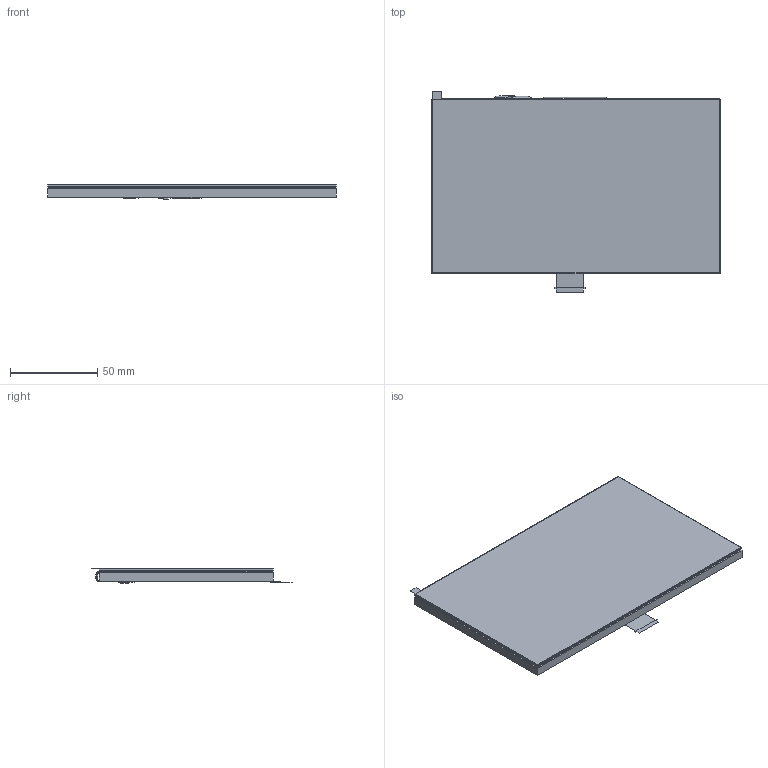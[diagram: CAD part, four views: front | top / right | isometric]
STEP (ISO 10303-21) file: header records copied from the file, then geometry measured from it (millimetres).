
FILE_DESCRIPTION(('FreeCAD Model'),'2;1');
FILE_NAME('Open CASCADE Shape Model','2026-06-30T11:58:58',(''),(''), 'Open CASCADE STEP processor 7.8','FreeCAD','Unknown');
FILE_SCHEMA(('AUTOMOTIVE_DESIGN { 1 0 10303 214 1 1 1 1 }'));
Length unit declared in the file: millimetre
Products named in the file (1): Body
Bounding box: 165.02 x 114.7 x 8.07 mm (x, y, z)
Volume: 110124.3 mm3; surface area: 104686 mm2
Topology: 1 solids, 1 shells, 273 faces, 707 edges, 454 vertices
Faces by surface type: plane 231, bspline 26, cylinder 16
Entity records: 10974 total; most frequent: CARTESIAN_POINT 4484, ORIENTED_EDGE 1418, DIRECTION 1158, EDGE_CURVE 707, LINE 598, VECTOR 598, VERTEX_POINT 454, FACE_BOUND 298
